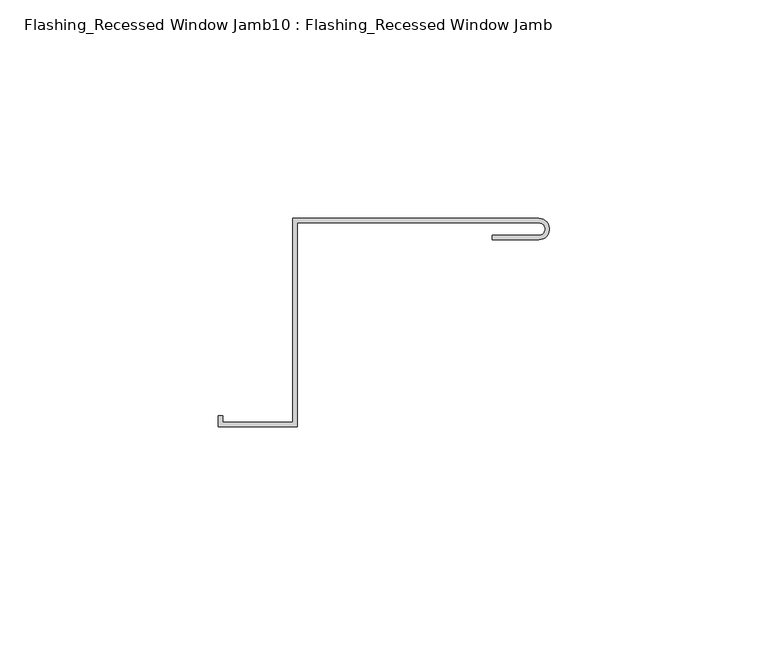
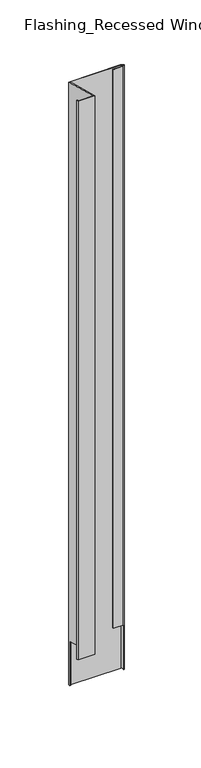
"""IFC4 building model written with IfcOpenShell, lengths in millimetres: proxy geometry, Flashing_Recessed Window Jamb10 : Flashing_Recessed Window Jamb."""

from ifc_helpers import new_model, si_unit, frame, origin, place, context, project, spatial, polyline, circle_curve, ellipse_curve, source, transform, mapped, element, save
from ifc_brep_helpers import plane_surface, cylinder_surface, revolved_surface, advanced_brep


def flashing_recessed_window_jamb10_flashing_recessed_window_f6a35a29(model_context):
    return source(origin(), model_context, "Body", "AdvancedBrep", [
        advanced_brep(
        [(9572.5240675, -23646.8591805, -1036.7382524), (9517.2186679, -23646.8591805, -1036.7382524), (9517.2186679, -23647.7910321, -1036.7382524), (9516.2186679, -23647.7910321, -1036.7382524), (9516.2186679, -23645.8591805, -1036.7382524), (9572.5240675, -23645.8591805, -1036.7382524), (9573.4001589, -23650.5268542, -1036.7382524), (9573.4001589, -23649.3877445, -1036.7382524), (9516.2186679, -23645.8591805, -343.2151173), (9572.5240675, -23645.8591805, -343.2151173), (9516.2186679, -23647.7910321, -985.662203), (9516.2186679, -23692.5446624, -973.6705039), (9516.2186679, -23692.5446624, -330.7057801), (9500.1874179, -23692.5446624, -330.7057801), (9500.1874179, -23692.5446624, -973.6705039), (9500.1874179, -23691.000184, -331.1196219), (9500.1874179, -23691.000184, -974.0843457), (9499.1874179, -23691.000184, -331.1196219), (9499.1874179, -23691.000184, -974.0843457), (9499.1874179, -23693.5446624, -330.4378309), (9499.1874179, -23693.5446624, -973.4025548), (9517.2186679, -23693.5446624, -330.4378309), (9517.2186679, -23693.5446624, -973.4025548), (9517.2186679, -23646.8591805, -342.9471681), (9517.2186679, -23647.7910321, -985.662203), (9572.5240675, -23646.8591805, -342.9471681), (9572.5240675, -23650.6912908, -341.9203573), (9561.8597232, -23650.6912908, -341.9203573), (9561.8597232, -23650.6912908, -984.8850811), (9572.5240675, -23650.6912908, -984.8850811), (9561.8597232, -23649.6912908, -342.1883065), (9561.8597232, -23649.6912908, -985.1530303), (9572.5240675, -23649.6912908, -342.1883065), (9572.5240675, -23649.6912908, -985.1530303), (9573.4001589, -23649.3877445, -985.2343652), (9573.4001589, -23650.5268542, -984.9291417)],
        [
            (0, 1),
            (1, 2),
            (2, 3),
            (3, 4),
            (4, 5),
            (5, 6, circle_curve(frame((9572.5240675, -23648.2752356, -1036.7382524), z_axis=(0.0, 0.0, -1.0), x_axis=(1.0, 0.0, 0.0)), 2.4160552)),
            (6, 7),
            (7, 0, circle_curve(frame((9572.5240675, -23648.2752356, -1036.7382524), z_axis=(0.0, 0.0, 1.0), x_axis=(1.0, 0.0, 0.0)), 1.4160552)),
            (4, 8),
            (8, 9),
            (9, 5),
            (3, 10),
            (10, 11),
            (11, 12),
            (12, 8),
            (13, 12),
            (11, 14),
            (14, 13),
            (15, 13),
            (14, 16),
            (16, 15),
            (17, 15),
            (16, 18),
            (18, 17),
            (19, 17),
            (18, 20),
            (20, 19),
            (21, 19),
            (20, 22),
            (22, 21),
            (1, 23),
            (23, 21),
            (22, 24),
            (24, 2),
            (0, 25),
            (25, 23),
            (26, 27),
            (27, 28),
            (28, 29),
            (29, 26),
            (27, 30),
            (30, 31),
            (31, 28),
            (30, 32),
            (32, 33),
            (33, 31),
            (7, 34),
            (34, 33, ellipse_curve(frame((9572.5240675, -23648.2752356, -985.5324611), z_axis=(0.0, -0.25881904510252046, -0.9659258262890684), x_axis=(0.0, 0.9659258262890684, -0.25881904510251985)), 1.4660082, 1.4160552)),
            (32, 25, ellipse_curve(frame((9572.5240675, -23648.2752356, -342.5677373), z_axis=(0.0, 0.2588190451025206, 0.9659258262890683), x_axis=(0.0, 0.9659258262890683, -0.25881904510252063)), 1.4660082, 1.4160552)),
            (9, 26, ellipse_curve(frame((9572.5240675, -23648.2752356, -342.5677373), z_axis=(0.0, -0.2588190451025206, -0.9659258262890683), x_axis=(0.0, -0.9659258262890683, 0.25881904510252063)), 2.5012844, 2.4160552)),
            (29, 35, ellipse_curve(frame((9572.5240675, -23648.2752356, -985.5324611), z_axis=(0.0, 0.25881904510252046, 0.9659258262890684), x_axis=(0.0, -0.9659258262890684, 0.25881904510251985)), 2.5012844, 2.4160552)),
            (35, 6),
            (35, 34),
            (10, 24),
        ],
        [
            plane_surface(frame((9501.2186679, -23692.5446624, -1036.7382524), z_axis=(0.0, 0.0, -1.0), x_axis=(1.0, 0.0, 0.0))),
            plane_surface(frame((9572.5240675, -23645.8591805, -277.6721404), z_axis=(0.0, 1.0, 0.0), x_axis=(0.0, 0.0, -1.0))),
            plane_surface(frame((9516.2186679, -23645.8591805, -277.6721404), z_axis=(-1.0, 0.0, 0.0), x_axis=(0.0, 0.0, -1.0))),
            plane_surface(frame((9516.2186679, -23692.5446624, -277.6721404), z_axis=(0.0, 1.0, 0.0), x_axis=(0.0, 0.0, -1.0))),
            plane_surface(frame((9500.1874179, -23692.5446624, -277.6721404), z_axis=(1.0, 0.0, 0.0), x_axis=(0.0, 0.0, -1.0))),
            plane_surface(frame((9500.1874179, -23691.000184, -277.6721404), z_axis=(0.0, 1.0, 0.0), x_axis=(0.0, 0.0, -1.0))),
            plane_surface(frame((9499.1874179, -23691.000184, -277.6721404), z_axis=(-1.0, 0.0, 0.0), x_axis=(0.0, 0.0, -1.0))),
            plane_surface(frame((9499.1874179, -23693.5446624, -277.6721404), z_axis=(0.0, -1.0, 0.0), x_axis=(0.0, 0.0, -1.0))),
            plane_surface(frame((9517.2186679, -23693.5446624, -277.6721404), z_axis=(1.0, 0.0, 0.0), x_axis=(0.0, 0.0, -1.0))),
            plane_surface(frame((9517.2186679, -23646.8591805, -277.6721404), z_axis=(0.0, -1.0, 0.0), x_axis=(0.0, 0.0, -1.0))),
            plane_surface(frame((9561.8597232, -23650.6912908, -277.6721404), z_axis=(0.0, -1.0, 0.0), x_axis=(0.0, 0.0, -1.0))),
            plane_surface(frame((9561.8597232, -23649.6912908, -277.6721404), z_axis=(-1.0, 0.0, 0.0), x_axis=(0.0, 0.0, -1.0))),
            plane_surface(frame((9572.5240675, -23649.6912908, -277.6721404), z_axis=(0.0, 1.0, 0.0), x_axis=(0.0, 0.0, -1.0))),
            revolved_surface(polyline([(9573.9401227, -23648.2752356, -1036.7382524), (9573.9401227, -23648.2752356, -342.1883064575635)]), (9572.5240675, -23648.2752356, -1036.7382524), (0.0, 0.0, -1.0)),
            cylinder_surface(frame((9572.5240675, -23648.2752356, -1036.7382524), z_axis=(0.0, 0.0, 1.0), x_axis=(1.0, 0.0, 0.0)), 2.4160552),
            plane_surface(frame((9406.2186679, -23622.3277831, -349.5203362), z_axis=(0.0, 0.2588190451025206, 0.9659258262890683), x_axis=(1.0, 0.0, 0.0))),
            plane_surface(frame((9573.4001589, -23318.5947236, -1301.2959937), z_axis=(-1.0, 0.0, 0.0), x_axis=(0.0, 0.9659258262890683, -0.2588190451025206))),
            plane_surface(frame((9406.2186679, -24247.7910321, -824.8926876), z_axis=(0.0, -0.25881904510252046, -0.9659258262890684), x_axis=(1.0, 0.0, 0.0))),
            plane_surface(frame((9406.2186679, -23647.7910321, -985.662203), z_axis=(0.0, -1.0, 0.0), x_axis=(1.0, 0.0, 0.0))),
        ],
        [
            (0, [[1, 2, 3, 4, 5, 6, 7, 8]]),
            (1, [[-5, 9, 10, 11]]),
            (2, [[-9, -4, 12, 13, 14, 15]]),
            (3, [[16, -14, 17, 18]]),
            (4, [[19, -18, 20, 21]]),
            (5, [[22, -21, 23, 24]]),
            (6, [[25, -24, 26, 27]]),
            (7, [[28, -27, 29, 30]]),
            (8, [[31, 32, -30, 33, 34, -2]]),
            (9, [[-1, 35, 36, -31]]),
            (10, [[37, 38, 39, 40]]),
            (11, [[41, 42, 43, -38]]),
            (12, [[44, 45, 46, -42]]),
            (13, [[-35, -8, 47, 48, -45, 49]]),
            (14, [[-11, 50, -40, 51, 52, -6]]),
            (15, [[-10, -15, -16, -19, -22, -25, -28, -32, -36, -49, -44, -41, -37, -50]]),
            (16, [[53, -47, -7, -52]]),
            (17, [[-53, -51, -39, -43, -46, -48]]),
            (17, [[54, -33, -29, -26, -23, -20, -17, -13]]),
            (18, [[-54, -12, -3, -34]]),
        ],
    ),
    ])


if __name__ == "__main__":
    model = new_model("IFC4")
    model_context = context("Model", 3, world=origin())
    ifc_project = project(units=[si_unit("LENGTHUNIT", "METRE", prefix="MILLI")], contexts=[model_context])
    site = spatial("IfcSite", under=ifc_project)
    building = spatial("IfcBuilding", under=site)
    placement = place(None, origin())
    flashing_recessed_window_jamb10_flashing_recessed_window_shape = flashing_recessed_window_jamb10_flashing_recessed_window_f6a35a29(model_context)
    element("IfcBuildingElementProxy", 1, Name="Flashing_Recessed Window Jamb10 : Flashing_Recessed Window Jamb", ObjectType="Flashing_Recessed Window Jamb10 : Flashing_Recessed Window Jamb", at=placement, inside=building, context=model_context, shape_type="MappedRepresentation", body=[
        mapped(flashing_recessed_window_jamb10_flashing_recessed_window_shape, transform((0.0, 0.0, 0.0), x_axis=(1.0, 0.0, 0.0), y_axis=(0.0, 1.0, 0.0), z_axis=(0.0, 0.0, 1.0))),
    ])
    save(model, "model.ifc")
